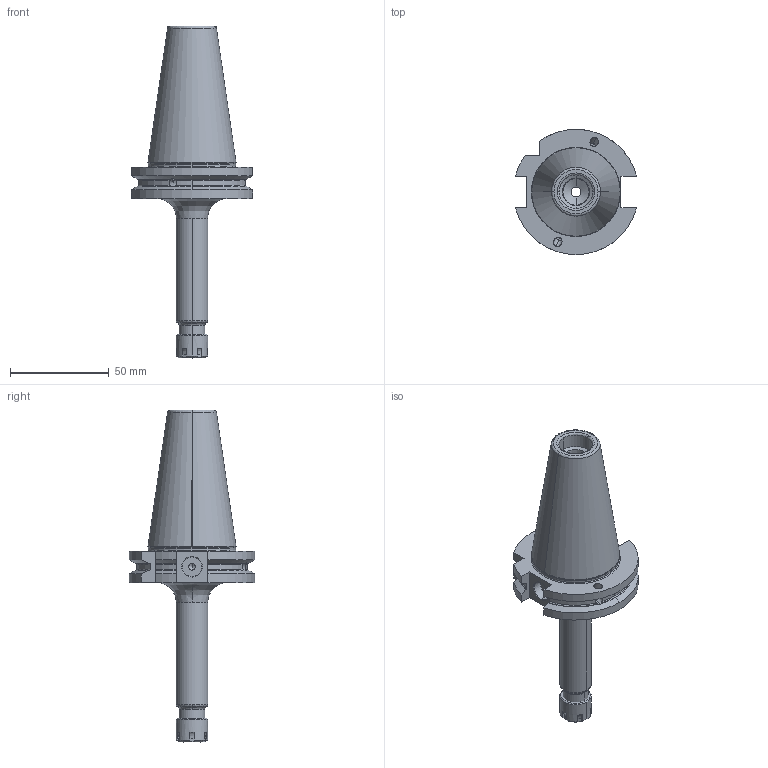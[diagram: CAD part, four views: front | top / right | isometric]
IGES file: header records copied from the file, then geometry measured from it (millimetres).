
Start section: 3D InterOp IGES (v. 2020 1.0.0), Spatial Corp. Copyright (c) 1999-2017.
Global section: file name: cctmp_80735329-3E50-4CD4-880A-23BE6E703CDE_2022_11_08_09_10_53_0094_12504..igs; native system: Spatial Corp.; preprocessor: 3D InterOp ACIS/IGES; author: Meusburger Georg GmbH & Co KG; organization: CADClick - www.CADClick.com; date: 20221108.091053; units: millimetre
Bounding box: 61.48 x 63.55 x 168.4 mm (x, y, z)
Surface area: 27398.3 mm2 (no closed solid volume)
Topology: 0 solids, 0 shells, 164 faces, 935 edges, 933 vertices
Faces by surface type: revolution 118, extrusion 45, bspline 1
